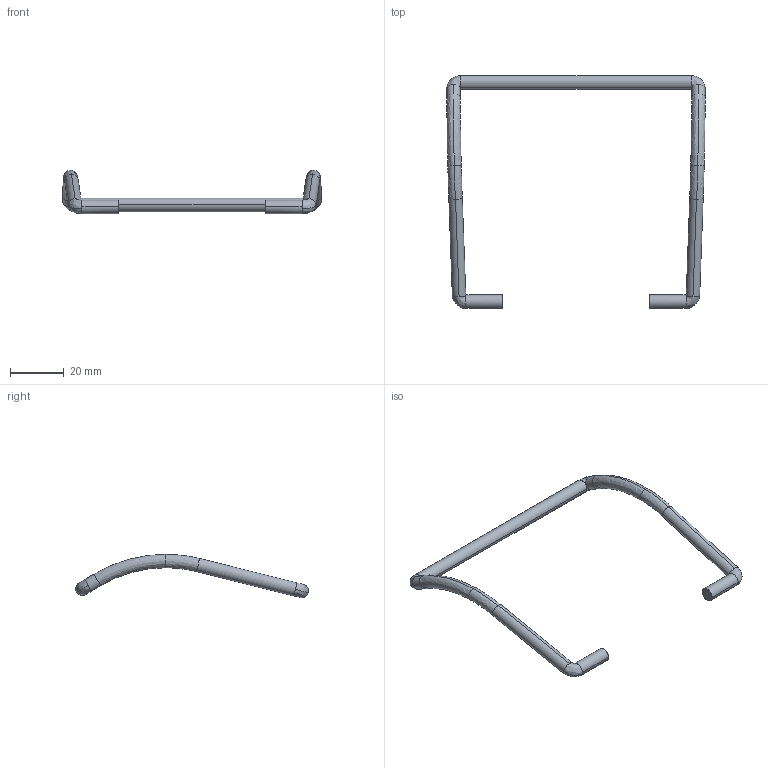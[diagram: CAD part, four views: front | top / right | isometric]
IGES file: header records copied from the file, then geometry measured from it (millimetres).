
Start section: SolidWorks IGES file using analytic representation for surfaces
Global section: file name: C:\Users\cbrechard.SAV\Desktop\GE 91\91.200.00.IGS; native system: SolidWorks 2013; preprocessor: SolidWorks 2013; author: cbrechard; date: 150422.173710; units: millimetre
Bounding box: 96.03 x 86.58 x 16.14 mm (x, y, z)
Surface area: 4585.9 mm2 (no closed solid volume)
Topology: 0 solids, 0 shells, 32 faces, 232 edges, 232 vertices
Faces by surface type: bspline 18, revolution 14
